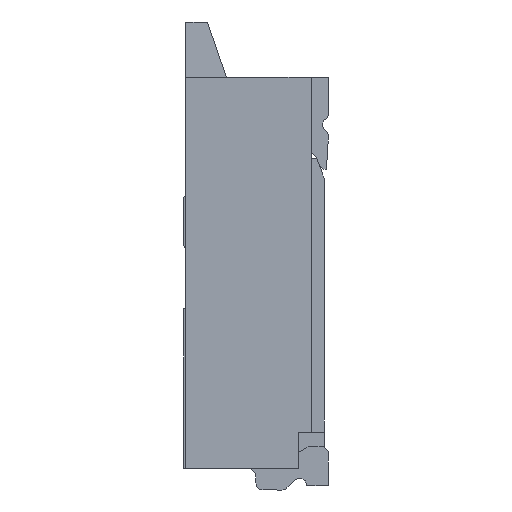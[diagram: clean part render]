
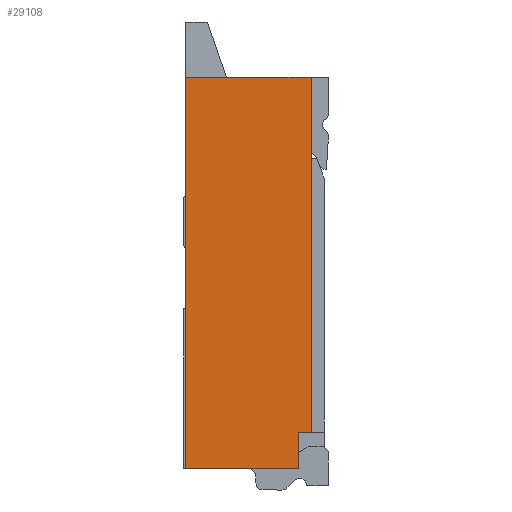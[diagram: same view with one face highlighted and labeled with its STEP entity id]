
A CAD part, left-side view. The second image highlights one B-rep face of the part: STEP entity #29108.
In plain terms, the highlighted planar face has unit normal (-1, 0, 0).
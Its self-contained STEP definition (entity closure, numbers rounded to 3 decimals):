
#36 = PLANE ( 'NONE',  #73243 ) ;
#2379 = DIRECTION ( 'NONE',  ( 0., -1., 0. ) ) ;
#4653 = VECTOR ( 'NONE', #53063, 1000. ) ;
#7156 = ORIENTED_EDGE ( 'NONE', *, *, #80029, .F. ) ;
#8287 = EDGE_CURVE ( 'NONE', #64095, #104910, #29818, .T. ) ;
#8382 = EDGE_CURVE ( 'NONE', #83286, #22152, #73404, .T. ) ;
#9021 = CARTESIAN_POINT ( 'NONE',  ( -9.125, 0.985, 1.235 ) ) ;
#9705 = EDGE_CURVE ( 'NONE', #69950, #45218, #23507, .T. ) ;
#12065 = DIRECTION ( 'NONE',  ( 0., -1., 0. ) ) ;
#13837 = VECTOR ( 'NONE', #12065, 1000. ) ;
#16092 = CARTESIAN_POINT ( 'NONE',  ( -9.125, 0.12, -1.215 ) ) ;
#16654 = LINE ( 'NONE', #31285, #23887 ) ;
#17979 = DIRECTION ( 'NONE',  ( 1., 0., 0. ) ) ;
#19201 = VECTOR ( 'NONE', #2379, 1000. ) ;
#22152 = VERTEX_POINT ( 'NONE', #9021 ) ;
#23507 = LINE ( 'NONE', #57705, #19201 ) ;
#23887 = VECTOR ( 'NONE', #31685, 1000. ) ;
#24410 = CARTESIAN_POINT ( 'NONE',  ( -9.125, 0.985, -1.465 ) ) ;
#25754 = DIRECTION ( 'NONE',  ( 0., 0., 1. ) ) ;
#29108 = ADVANCED_FACE ( 'NONE', ( #39422 ), #36, .F. ) ;
#29410 = LINE ( 'NONE', #16092, #4653 ) ;
#29818 = LINE ( 'NONE', #94573, #13837 ) ;
#31285 = CARTESIAN_POINT ( 'NONE',  ( -9.125, 0.21, -1.465 ) ) ;
#31685 = DIRECTION ( 'NONE',  ( 0., 0., 1. ) ) ;
#34687 = CARTESIAN_POINT ( 'NONE',  ( -9.125, 0.21, -1.215 ) ) ;
#39422 = FACE_OUTER_BOUND ( 'NONE', #84935, .T. ) ;
#45218 = VERTEX_POINT ( 'NONE', #111895 ) ;
#46724 = ORIENTED_EDGE ( 'NONE', *, *, #9705, .T. ) ;
#53063 = DIRECTION ( 'NONE',  ( 0., 0., -1. ) ) ;
#57705 = CARTESIAN_POINT ( 'NONE',  ( -9.125, 1., -1.465 ) ) ;
#60397 = DIRECTION ( 'NONE',  ( 0., 1., 0. ) ) ;
#61202 = LINE ( 'NONE', #62346, #93158 ) ;
#61448 = ORIENTED_EDGE ( 'NONE', *, *, #8287, .T. ) ;
#62346 = CARTESIAN_POINT ( 'NONE',  ( -9.125, 0.985, 1.235 ) ) ;
#64095 = VERTEX_POINT ( 'NONE', #34687 ) ;
#69950 = VERTEX_POINT ( 'NONE', #24410 ) ;
#70076 = ORIENTED_EDGE ( 'NONE', *, *, #8382, .T. ) ;
#70824 = EDGE_CURVE ( 'NONE', #69950, #22152, #61202, .T. ) ;
#73243 = AXIS2_PLACEMENT_3D ( 'NONE', #92345, #17979, #84599 ) ;
#73404 = LINE ( 'NONE', #77858, #85070 ) ;
#73927 = EDGE_CURVE ( 'NONE', #45218, #64095, #16654, .T. ) ;
#76520 = CARTESIAN_POINT ( 'NONE',  ( -9.125, 0.12, 1.235 ) ) ;
#77858 = CARTESIAN_POINT ( 'NONE',  ( -9.125, 1., 1.235 ) ) ;
#80029 = EDGE_CURVE ( 'NONE', #83286, #104910, #29410, .T. ) ;
#83286 = VERTEX_POINT ( 'NONE', #76520 ) ;
#84599 = DIRECTION ( 'NONE',  ( 0., 0., -1. ) ) ;
#84935 = EDGE_LOOP ( 'NONE', ( #87791, #46724, #102744, #61448, #7156, #70076 ) ) ;
#85070 = VECTOR ( 'NONE', #60397, 1000. ) ;
#87791 = ORIENTED_EDGE ( 'NONE', *, *, #70824, .F. ) ;
#92345 = CARTESIAN_POINT ( 'NONE',  ( -9.125, 1., 1.615 ) ) ;
#93158 = VECTOR ( 'NONE', #25754, 1000. ) ;
#94573 = CARTESIAN_POINT ( 'NONE',  ( -9.125, 0.21, -1.215 ) ) ;
#99655 = CARTESIAN_POINT ( 'NONE',  ( -9.125, 0.12, -1.215 ) ) ;
#102744 = ORIENTED_EDGE ( 'NONE', *, *, #73927, .T. ) ;
#104910 = VERTEX_POINT ( 'NONE', #99655 ) ;
#111895 = CARTESIAN_POINT ( 'NONE',  ( -9.125, 0.21, -1.465 ) ) ;
